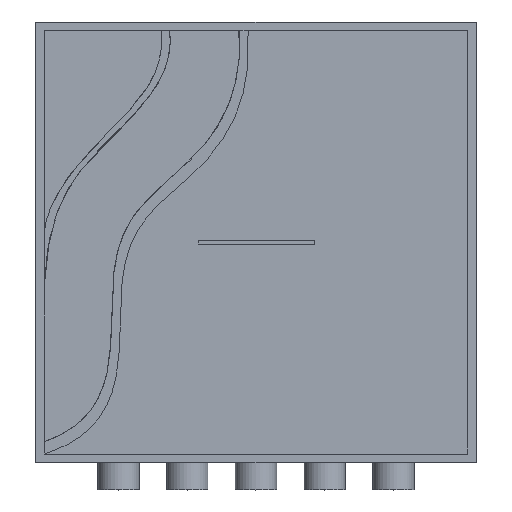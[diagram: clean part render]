
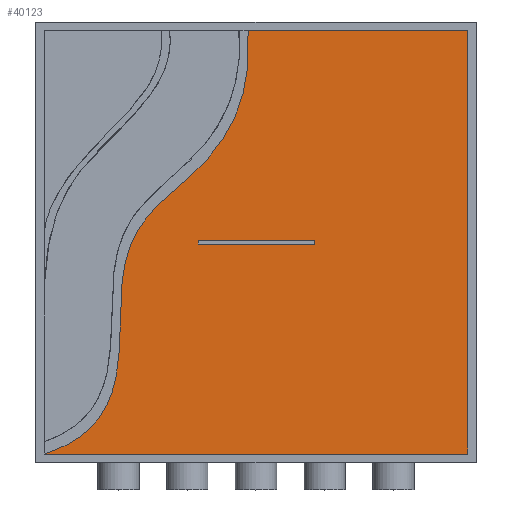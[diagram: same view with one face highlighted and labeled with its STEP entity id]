
A CAD part, top view. The second image highlights one B-rep face of the part: STEP entity #40123.
In plain terms, the highlighted planar face has unit normal (0, 0, 1).
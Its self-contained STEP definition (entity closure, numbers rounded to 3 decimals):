
#18=(
BOUNDED_CURVE()
B_SPLINE_CURVE(5,(#67578,#67579,#67580,#67581,#67582,#67583,#67584,#67585,
#67586,#67587,#67588,#67589,#67590,#67591,#67592,#67593,#67594,#67595,#67596,
#67597,#67598,#67599,#67600,#67601,#67602,#67603,#67604,#67605,#67606,#67607),
 .UNSPECIFIED.,.F.,.F.)
B_SPLINE_CURVE_WITH_KNOTS((6,1,1,1,1,1,1,1,1,1,1,1,1,1,1,1,1,1,1,1,1,1,
1,1,1,6),(0.,0.04,0.08,0.12,0.16,0.2,0.24,0.28,0.32,0.36,0.4,0.44,0.48,
0.52,0.56,0.6,0.64,0.68,0.72,0.76,0.8,0.84,0.88,0.92,0.96,1.),
 .UNSPECIFIED.)
CURVE()
GEOMETRIC_REPRESENTATION_ITEM()
RATIONAL_B_SPLINE_CURVE((1.,1.,1.,1.,1.,1.,1.,1.,1.,1.,1.,1.,1.,1.,1.,1.,
1.,1.,1.,1.,1.,1.,1.,1.,1.,1.,1.,1.,1.,1.))
REPRESENTATION_ITEM('')
);
#510=FACE_BOUND('',#6183,.T.);
#1861=PLANE('',#43259);
#3927=FACE_OUTER_BOUND('',#6182,.T.);
#6182=EDGE_LOOP('',(#35721,#35722,#35723,#35724));
#6183=EDGE_LOOP('',(#35725,#35726,#35727,#35728));
#10520=LINE('',#67450,#14866);
#10523=LINE('',#67456,#14869);
#10526=LINE('',#67462,#14872);
#10529=LINE('',#67466,#14875);
#10532=LINE('',#67474,#14878);
#10535=LINE('',#67480,#14881);
#10538=LINE('',#67486,#14884);
#14866=VECTOR('',#53716,10.);
#14869=VECTOR('',#53721,10.);
#14872=VECTOR('',#53726,10.);
#14875=VECTOR('',#53731,10.);
#14878=VECTOR('',#53736,10.);
#14881=VECTOR('',#53741,10.);
#14884=VECTOR('',#53746,10.);
#19376=VERTEX_POINT('',#67447);
#19377=VERTEX_POINT('',#67449);
#19379=VERTEX_POINT('',#67455);
#19381=VERTEX_POINT('',#67461);
#19384=VERTEX_POINT('',#67471);
#19385=VERTEX_POINT('',#67473);
#19387=VERTEX_POINT('',#67479);
#19389=VERTEX_POINT('',#67485);
#24820=EDGE_CURVE('',#19377,#19376,#10520,.T.);
#24823=EDGE_CURVE('',#19379,#19377,#10523,.T.);
#24826=EDGE_CURVE('',#19381,#19379,#10526,.T.);
#24829=EDGE_CURVE('',#19376,#19381,#10529,.T.);
#24832=EDGE_CURVE('',#19385,#19384,#10532,.T.);
#24835=EDGE_CURVE('',#19387,#19385,#10535,.T.);
#24838=EDGE_CURVE('',#19389,#19387,#10538,.T.);
#24841=EDGE_CURVE('',#19384,#19389,#18,.T.);
#35721=ORIENTED_EDGE('',*,*,#24841,.T.);
#35722=ORIENTED_EDGE('',*,*,#24838,.T.);
#35723=ORIENTED_EDGE('',*,*,#24835,.T.);
#35724=ORIENTED_EDGE('',*,*,#24832,.T.);
#35725=ORIENTED_EDGE('',*,*,#24826,.T.);
#35726=ORIENTED_EDGE('',*,*,#24823,.T.);
#35727=ORIENTED_EDGE('',*,*,#24820,.T.);
#35728=ORIENTED_EDGE('',*,*,#24829,.T.);
#40123=ADVANCED_FACE('',(#3927,#510),#1861,.T.);
#43259=AXIS2_PLACEMENT_3D('',#67608,#53748,#53749);
#53716=DIRECTION('',(1.,0.,0.));
#53721=DIRECTION('',(0.,1.,0.));
#53726=DIRECTION('',(-1.,0.,0.));
#53731=DIRECTION('',(0.,-1.,0.));
#53736=DIRECTION('',(-1.,0.,0.));
#53741=DIRECTION('',(0.,1.,0.));
#53746=DIRECTION('',(1.,0.,0.));
#53748=DIRECTION('center_axis',(0.,0.,1.));
#53749=DIRECTION('ref_axis',(-1.,0.,0.));
#67447=CARTESIAN_POINT('',(101.02,80.425,66.));
#67449=CARTESIAN_POINT('',(58.98,80.425,66.));
#67450=CARTESIAN_POINT('',(69.49,80.425,66.));
#67455=CARTESIAN_POINT('',(58.98,79.575,66.));
#67456=CARTESIAN_POINT('',(58.98,79.788,66.));
#67461=CARTESIAN_POINT('',(101.02,79.575,66.));
#67462=CARTESIAN_POINT('',(90.51,79.575,66.));
#67466=CARTESIAN_POINT('',(101.02,80.213,66.));
#67471=CARTESIAN_POINT('',(77.109,157.,66.));
#67473=CARTESIAN_POINT('',(157.,157.,66.));
#67474=CARTESIAN_POINT('',(157.,157.,66.));
#67479=CARTESIAN_POINT('',(157.,3.,66.));
#67480=CARTESIAN_POINT('',(157.,3.,66.));
#67485=CARTESIAN_POINT('',(3.,3.,66.));
#67486=CARTESIAN_POINT('',(3.,3.,66.));
#67578=CARTESIAN_POINT('Ctrl Pts',(77.109,157.,66.));
#67579=CARTESIAN_POINT('Ctrl Pts',(77.214,155.58,66.));
#67580=CARTESIAN_POINT('Ctrl Pts',(77.365,152.766,66.));
#67581=CARTESIAN_POINT('Ctrl Pts',(77.41,148.624,66.));
#67582=CARTESIAN_POINT('Ctrl Pts',(77.107,143.259,66.));
#67583=CARTESIAN_POINT('Ctrl Pts',(76.118,136.821,66.));
#67584=CARTESIAN_POINT('Ctrl Pts',(74.506,130.659,66.));
#67585=CARTESIAN_POINT('Ctrl Pts',(72.254,124.785,66.));
#67586=CARTESIAN_POINT('Ctrl Pts',(69.338,119.219,66.));
#67587=CARTESIAN_POINT('Ctrl Pts',(65.741,113.979,66.));
#67588=CARTESIAN_POINT('Ctrl Pts',(61.482,109.06,66.));
#67589=CARTESIAN_POINT('Ctrl Pts',(56.651,104.409,66.));
#67590=CARTESIAN_POINT('Ctrl Pts',(51.435,99.906,66.));
#67591=CARTESIAN_POINT('Ctrl Pts',(46.165,95.334,66.));
#67592=CARTESIAN_POINT('Ctrl Pts',(41.243,90.423,66.));
#67593=CARTESIAN_POINT('Ctrl Pts',(37.062,84.912,66.));
#67594=CARTESIAN_POINT('Ctrl Pts',(33.918,78.604,66.));
#67595=CARTESIAN_POINT('Ctrl Pts',(31.931,71.424,66.));
#67596=CARTESIAN_POINT('Ctrl Pts',(30.959,63.477,66.));
#67597=CARTESIAN_POINT('Ctrl Pts',(30.669,55.,66.));
#67598=CARTESIAN_POINT('Ctrl Pts',(30.606,46.311,66.));
#67599=CARTESIAN_POINT('Ctrl Pts',(30.271,37.76,66.));
#67600=CARTESIAN_POINT('Ctrl Pts',(29.183,29.683,66.));
#67601=CARTESIAN_POINT('Ctrl Pts',(26.959,22.347,66.));
#67602=CARTESIAN_POINT('Ctrl Pts',(23.365,15.916,66.));
#67603=CARTESIAN_POINT('Ctrl Pts',(18.268,10.484,66.));
#67604=CARTESIAN_POINT('Ctrl Pts',(12.945,6.968,66.));
#67605=CARTESIAN_POINT('Ctrl Pts',(8.246,4.802,66.));
#67606=CARTESIAN_POINT('Ctrl Pts',(4.801,3.566,66.));
#67607=CARTESIAN_POINT('Ctrl Pts',(3.,3.,66.));
#67608=CARTESIAN_POINT('Origin',(80.,80.,66.));
